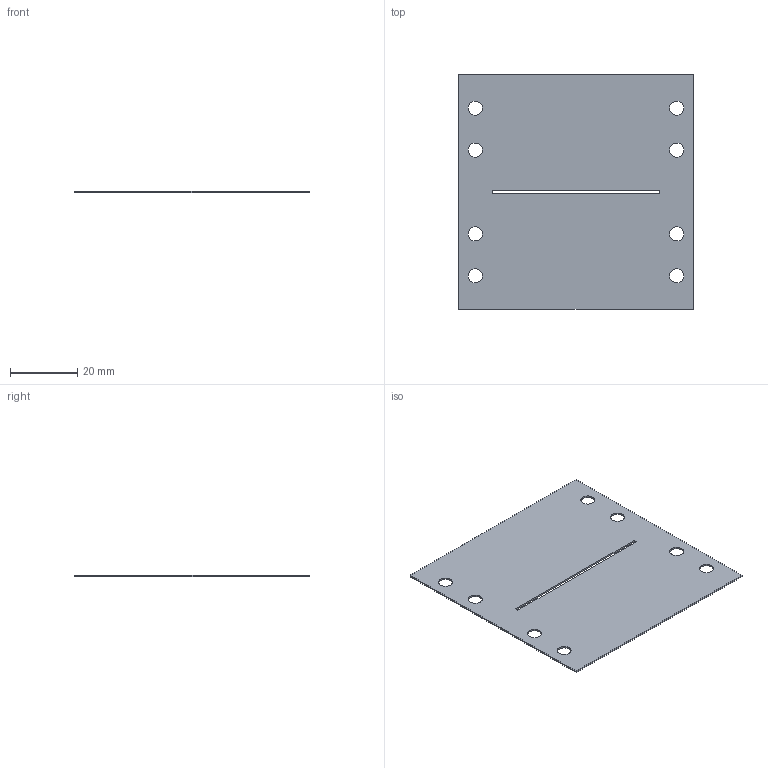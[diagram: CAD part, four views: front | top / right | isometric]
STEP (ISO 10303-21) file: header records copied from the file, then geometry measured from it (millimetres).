
FILE_DESCRIPTION (( 'STEP AP203' ), '1' );
FILE_NAME ('狫瑜1.STEP', '2026-07-21T09:19:51', ( '' ), ( '' ), 'SwSTEP 2.0', 'SolidWorks 2023', '' );
FILE_SCHEMA (( 'CONFIG_CONTROL_DESIGN' ));
Length unit declared in the file: millimetre
Products named in the file (1): 狭缝1
Bounding box: 70 x 70 x 0.5 mm (x, y, z)
Volume: 2369.6 mm3; surface area: 9722.1 mm2
Topology: 1 solids, 1 shells, 26 faces, 72 edges, 48 vertices
Faces by surface type: cylinder 16, plane 10
Entity records: 961 total; most frequent: DIRECTION 158, CARTESIAN_POINT 147, ORIENTED_EDGE 144, EDGE_CURVE 72, AXIS2_PLACEMENT_3D 59, VERTEX_POINT 48, EDGE_LOOP 44, VECTOR 40
